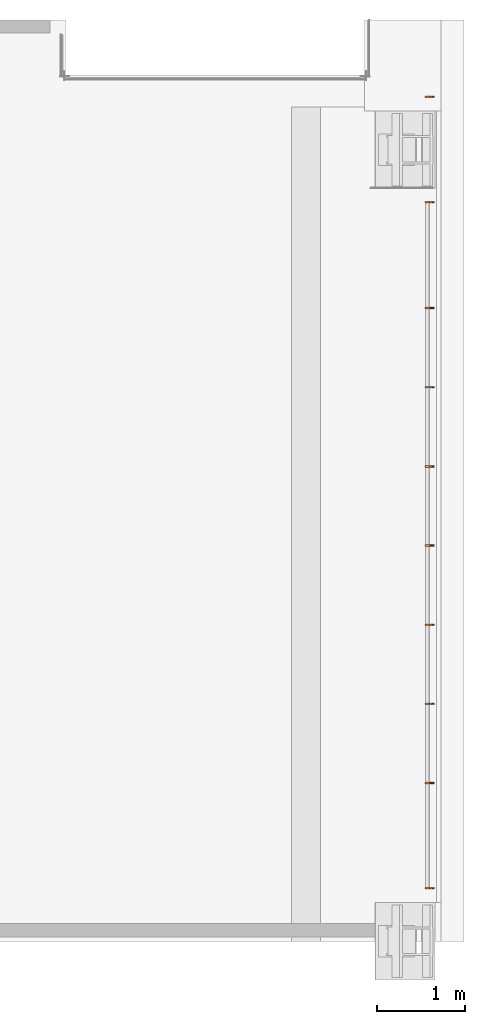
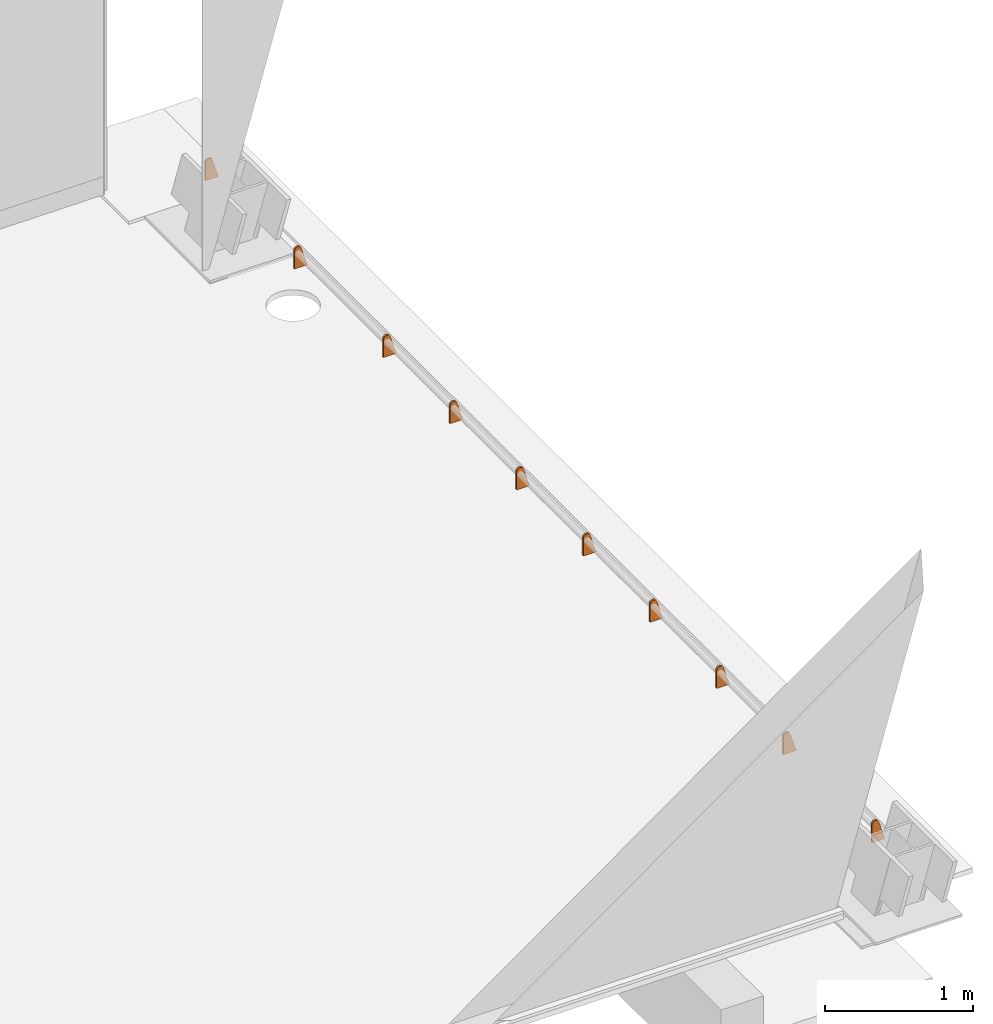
# One storey, part 13 of 14: 10 proxies.
"""IFC2X3 building model written with IfcOpenShell, lengths in millimetres."""

from ifc_helpers import new_model, entity, si_unit, converted_unit, derived_unit, direction, frame, frame_2d, origin, origin_with_axes, place, context, subcontext, project, spatial, polyline, circle_curve, parameter, trimmed, segment, composite_curve, outline, extrude, source, transform, mapped, material, type_object, element, save


model = new_model("IFC2X3")

# Units and contexts
model_context = context("Model", 3, precision=0.01, world=frame((0.0, 4.29681676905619e-09, 0.0)), true_north=direction((4.01073788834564e-13, 1.0)))
plan_context = context("Plan", 3, precision=0.01, world=frame((0.0, 4.29681676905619e-09, 0.0)), true_north=direction((4.01073788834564e-13, 1.0)))
body_context = subcontext(model_context, "Body", "Model", "MODEL_VIEW")
ifc_project = project(units=[converted_unit("PLANEANGLEUNIT", "DEGREE", entity("IfcPositiveLengthMeasure", 0.0174532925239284), si_unit("PLANEANGLEUNIT", "RADIAN"), dimensions=[0, 0, 0, 0, 0, 0, 0]), si_unit("AREAUNIT", "SQUARE_METRE"), si_unit("LENGTHUNIT", "METRE", prefix="MILLI"), si_unit("MASSUNIT", "GRAM", prefix="KILO"), si_unit("POWERUNIT", "WATT"), si_unit("PRESSUREUNIT", "PASCAL"), si_unit("FORCEUNIT", "NEWTON", prefix="KILO"), si_unit("ELECTRICVOLTAGEUNIT", "VOLT"), si_unit("ELECTRICCURRENTUNIT", "AMPERE"), si_unit("THERMODYNAMICTEMPERATUREUNIT", "DEGREE_CELSIUS"), si_unit("TIMEUNIT", "SECOND"), si_unit("VOLUMEUNIT", "CUBIC_METRE"), derived_unit("LINEARVELOCITYUNIT", [(si_unit("LENGTHUNIT", "METRE"), 1), (si_unit("TIMEUNIT", "SECOND"), -1)]), derived_unit("VOLUMETRICFLOWRATEUNIT", [(si_unit("VOLUMEUNIT", "CUBIC_METRE"), 1), (si_unit("TIMEUNIT", "SECOND"), -1)]), derived_unit("THERMALTRANSMITTANCEUNIT", [(si_unit("POWERUNIT", "WATT"), 1), (si_unit("THERMODYNAMICTEMPERATUREUNIT", "KELVIN"), -1), (si_unit("AREAUNIT", "SQUARE_METRE"), -1)]), derived_unit("SOUNDPRESSUREUNIT", [(si_unit("PRESSUREUNIT", "PASCAL"), 1)])], contexts=[model_context, plan_context])

# Site, building, storey
site_placement = place(None, origin_with_axes())
site = spatial("IfcSite", under=ifc_project, at=site_placement, Name="ENGM", CompositionType="ELEMENT")
building_placement = place(site_placement, origin_with_axes())
building = spatial("IfcBuilding", under=site, at=building_placement, Name="TI", CompositionType="ELEMENT")
storey_placement = place(building_placement, frame((0.0, 0.0, 210900.0), z_axis=(0.0, 0.0, 1.0), x_axis=(1.0, 0.0, 0.0)))
storey = spatial("IfcBuildingStorey", under=building, at=storey_placement, Name="Nivå F", CompositionType="ELEMENT", Elevation=210900.0)

# Proxies
ifc_material = material(Name="_NSW Stål")
building_element_proxy_type = type_object("IfcBuildingElementProxyType", Name="A247 - Fendring - Konsoll FE-S01:A247 - Fendring - Konsoll FE-S01", PredefinedType="NOTDEFINED", material=ifc_material)
shared_shape = source(origin(), body_context, "Body", "SweptSolid", [
    extrude(outline(composite_curve([segment(polyline([(-38.6829608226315, -75.7430607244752), (62.2298144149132, -75.7430607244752)]), True, "CONTINUOUS"), segment(polyline([(62.2298144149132, -75.7430607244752), (15.1361072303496, 79.7291821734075)]), True, "CONTINUOUS"), segment(trimmed(circle_curve(frame_2d((-11.1829608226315, 71.7569392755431), x_axis=(-1.0, 0.0)), 27.5), [parameter(196.851953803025)], [parameter(360.0)], True, "PARAMETER"), True, "CONTINUOUS"), segment(polyline([(-38.6829608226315, 71.7569392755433), (-38.6829608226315, -75.7430607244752)]), True, "CONTINUOUS")], self_intersect=False)), frame((-7.5, 11.1829608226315, 75.7430607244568), z_axis=(1.0, 0.0, 0.0), x_axis=(0.0, 1.0, 0.0)), (0.0, 0.0, 1.0), 15.0),
])
for number, where, z_axis, x_axis in (
    (1, (612016.28207247, 698602.663867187, 0.0), (0.0, 0.0, 1.0), (0.0, -1.0, 0.0)),
    (2, (612016.28207247, 697402.33613281, 0.0), (0.0, 0.0, 1.0), (0.0, -1.0, 0.0)),
    (3, (612016.28207247, 696200.404875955, 0.0), (0.0, 0.0, 1.0), (0.0, -1.0, 0.0)),
    (4, (612016.28207247, 694400.404901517, 0.0), (0.0, 0.0, 1.0), (0.0, -1.0, 0.0)),
    (5, (612016.28207247, 695300.404888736, 0.0), (0.0, 0.0, 1.0), (0.0, -1.0, 0.0)),
    (6, (612016.28207247, 693500.404914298, 0.0), (0.0, 0.0, 1.0), (0.0, -1.0, 0.0)),
    (7, (612016.28207247, 692600.404875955, 0.0), (0.0, 0.0, 1.0), (0.0, -1.0, 0.0)),
    (8, (612016.28207247, 690800.404850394, 0.0), (0.0, 0.0, 1.0), (0.0, -1.0, 0.0)),
    (9, (612016.28207247, 691700.404888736, 0.0), (0.0, 0.0, 1.0), (0.0, -1.0, 0.0)),
    (10, (612016.28207247, 689602.663867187, 0.0), (0.0, 0.0, 1.0), (0.0, -1.0, 0.0)),
):
    element("IfcBuildingElementProxy", number, at=place(storey_placement, frame(where, z_axis=z_axis, x_axis=x_axis)), inside=storey, type_object=building_element_proxy_type, material=ifc_material, Name="A247 - Fendring - Konsoll FE-S01:A247 - Fendring - Konsoll FE-S01", ObjectType="A247 - Fendring - Konsoll FE-S01:A247 - Fendring - Konsoll FE-S01", context=body_context, shape_type="MappedRepresentation", body=[
        mapped(shared_shape, transform((0.0, 0.0, 0.0), scale=1.0)),
    ])

save(model, "model.ifc")
